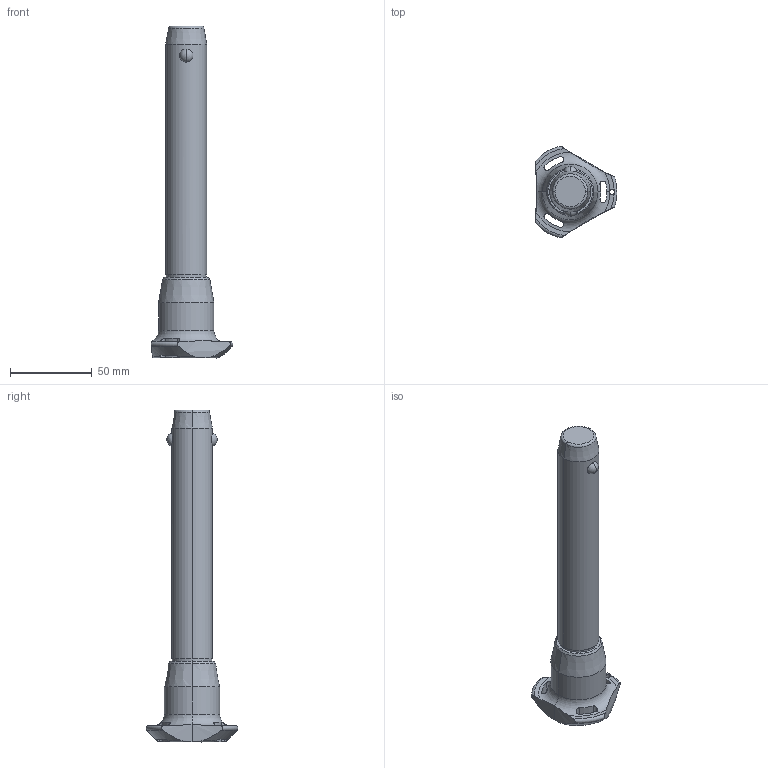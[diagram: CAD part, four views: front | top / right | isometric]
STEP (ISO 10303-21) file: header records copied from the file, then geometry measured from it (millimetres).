
FILE_DESCRIPTION (( 'STEP AP203' ), '1' );
FILE_NAME ('QR1734.M25-130-S.step', '2025-11-12T14:47:31', ( '' ), ( '' ), 'SwSTEP 2.0', 'SolidWorks 2019', '' );
FILE_SCHEMA (( 'CONFIG_CONTROL_DESIGN' ));
Length unit declared in the file: millimetre
Products named in the file (1): QR1734.M25-130-S
Bounding box: 50.05 x 56.02 x 202.7 mm (x, y, z)
Volume: 122267.1 mm3; surface area: 21659.4 mm2
Topology: 1 solids, 1 shells, 65 faces, 176 edges, 111 vertices
Faces by surface type: cylinder 30, cone 14, torus 11, sphere 6, plane 4
Entity records: 2858 total; most frequent: CARTESIAN_POINT 1179, ORIENTED_EDGE 352, DIRECTION 329, EDGE_CURVE 176, AXIS2_PLACEMENT_3D 147, VERTEX_POINT 111, CIRCLE 81, EDGE_LOOP 71
